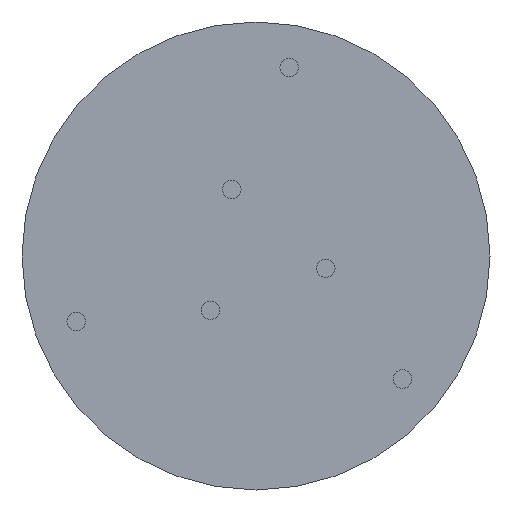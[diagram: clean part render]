
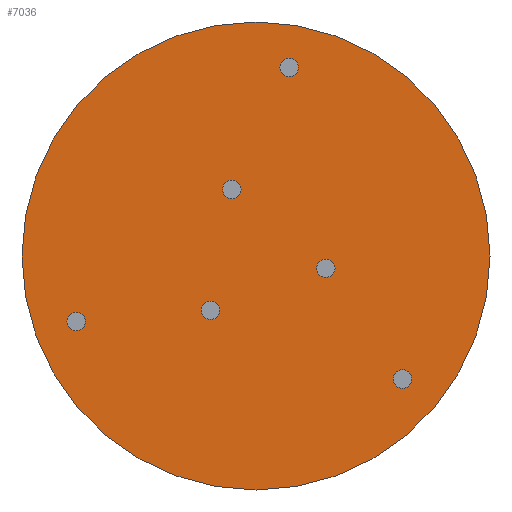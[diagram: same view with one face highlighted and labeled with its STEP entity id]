
A CAD part, front view. The second image highlights one B-rep face of the part: STEP entity #7036.
In plain terms, the highlighted planar face has unit normal (0, -1, 0).
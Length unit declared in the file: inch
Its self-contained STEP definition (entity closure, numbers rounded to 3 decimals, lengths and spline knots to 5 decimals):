
#660 = DIRECTION ( 'NONE',  ( 0., 0., 1. ) ) ;
#849 = ORIENTED_EDGE ( 'NONE', *, *, #27517, .T. ) ;
#867 = DIRECTION ( 'NONE',  ( 0., -1., 0. ) ) ;
#882 = EDGE_LOOP ( 'NONE', ( #849, #9481 ) ) ;
#1017 = CARTESIAN_POINT ( 'NONE',  ( -1.24861, -1.19424, -0.39028 ) ) ;
#1350 = CARTESIAN_POINT ( 'NONE',  ( 0.48465, -1.19424, -0.08546 ) ) ;
#2125 = ORIENTED_EDGE ( 'NONE', *, *, #2767, .T. ) ;
#2678 = DIRECTION ( 'NONE',  ( 0., 0., 1. ) ) ;
#2767 = EDGE_CURVE ( 'NONE', #28393, #37525, #39698, .T. ) ;
#3000 = DIRECTION ( 'NONE',  ( 0., 1., 0. ) ) ;
#3246 = CARTESIAN_POINT ( 'NONE',  ( -1.24861, -1.19424, -0.51863 ) ) ;
#3562 = CARTESIAN_POINT ( 'NONE',  ( 0.48465, -1.19424, -0.08546 ) ) ;
#3701 = CARTESIAN_POINT ( 'NONE',  ( 0.23073, -1.19424, 1.37273 ) ) ;
#3897 = EDGE_CURVE ( 'NONE', #39075, #25338, #12482, .T. ) ;
#3996 = VERTEX_POINT ( 'NONE', #3701 ) ;
#4441 = CARTESIAN_POINT ( 'NONE',  ( 0., -1.19424, 1.62475 ) ) ;
#4602 = DIRECTION ( 'NONE',  ( 0., 1., 0. ) ) ;
#4947 = CARTESIAN_POINT ( 'NONE',  ( -0.16832, -1.19424, 0.52662 ) ) ;
#5356 = CIRCLE ( 'NONE', #17057, 0.06417 ) ;
#5467 = CARTESIAN_POINT ( 'NONE',  ( 1.01787, -1.19424, -0.91827 ) ) ;
#5566 = ORIENTED_EDGE ( 'NONE', *, *, #24987, .T. ) ;
#5693 = CARTESIAN_POINT ( 'NONE',  ( 0., -1.19424, 0. ) ) ;
#6194 = DIRECTION ( 'NONE',  ( 0., 1., 0. ) ) ;
#6508 = DIRECTION ( 'NONE',  ( 0., 0., 1. ) ) ;
#6610 = DIRECTION ( 'NONE',  ( 0., 1., 0. ) ) ;
#6855 = AXIS2_PLACEMENT_3D ( 'NONE', #3562, #36313, #24168 ) ;
#7036 = ADVANCED_FACE ( 'NONE', ( #20160, #37640, #27552, #38316, #36295, #9533, #10804 ), #25521, .T. ) ;
#7470 = DIRECTION ( 'NONE',  ( 0., 0., -1. ) ) ;
#7742 = EDGE_CURVE ( 'NONE', #10755, #3996, #15672, .T. ) ;
#8001 = CARTESIAN_POINT ( 'NONE',  ( -0.31633, -1.19424, -0.37699 ) ) ;
#8178 = ORIENTED_EDGE ( 'NONE', *, *, #7742, .T. ) ;
#9007 = CARTESIAN_POINT ( 'NONE',  ( -0.16832, -1.19424, 0.46245 ) ) ;
#9086 = EDGE_LOOP ( 'NONE', ( #16777, #14699 ) ) ;
#9431 = VERTEX_POINT ( 'NONE', #5467 ) ;
#9481 = ORIENTED_EDGE ( 'NONE', *, *, #3897, .T. ) ;
#9533 = FACE_BOUND ( 'NONE', #23449, .T. ) ;
#9676 = DIRECTION ( 'NONE',  ( 0., 1., 0. ) ) ;
#10499 = CARTESIAN_POINT ( 'NONE',  ( 0.23073, -1.19424, 1.30855 ) ) ;
#10755 = VERTEX_POINT ( 'NONE', #20962 ) ;
#10804 = FACE_OUTER_BOUND ( 'NONE', #41431, .T. ) ;
#11065 = CARTESIAN_POINT ( 'NONE',  ( 0.23073, -1.19424, 1.30855 ) ) ;
#12482 = CIRCLE ( 'NONE', #19868, 0.06417 ) ;
#13203 = AXIS2_PLACEMENT_3D ( 'NONE', #29573, #867, #7470 ) ;
#13389 = VERTEX_POINT ( 'NONE', #4947 ) ;
#14180 = ORIENTED_EDGE ( 'NONE', *, *, #18411, .T. ) ;
#14210 = EDGE_CURVE ( 'NONE', #14649, #16172, #19831, .T. ) ;
#14393 = DIRECTION ( 'NONE',  ( 0., 0., 1. ) ) ;
#14649 = VERTEX_POINT ( 'NONE', #35312 ) ;
#14663 = CARTESIAN_POINT ( 'NONE',  ( 0., -1.19424, 0. ) ) ;
#14699 = ORIENTED_EDGE ( 'NONE', *, *, #27592, .T. ) ;
#14911 = AXIS2_PLACEMENT_3D ( 'NONE', #10499, #15818, #6508 ) ;
#14977 = EDGE_CURVE ( 'NONE', #13389, #38180, #39030, .T. ) ;
#15645 = CARTESIAN_POINT ( 'NONE',  ( 1.01787, -1.19424, -0.8541 ) ) ;
#15672 = CIRCLE ( 'NONE', #14911, 0.06417 ) ;
#15818 = DIRECTION ( 'NONE',  ( 0., 1., 0. ) ) ;
#16169 = ORIENTED_EDGE ( 'NONE', *, *, #39729, .T. ) ;
#16172 = VERTEX_POINT ( 'NONE', #4441 ) ;
#16259 = CIRCLE ( 'NONE', #36036, 0.06417 ) ;
#16614 = EDGE_LOOP ( 'NONE', ( #16169, #5566 ) ) ;
#16692 = CARTESIAN_POINT ( 'NONE',  ( 1.01787, -1.19424, -0.78992 ) ) ;
#16777 = ORIENTED_EDGE ( 'NONE', *, *, #23933, .T. ) ;
#16880 = DIRECTION ( 'NONE',  ( 0., 1., 0. ) ) ;
#17046 = DIRECTION ( 'NONE',  ( 0., 1., 0. ) ) ;
#17057 = AXIS2_PLACEMENT_3D ( 'NONE', #11065, #17046, #14393 ) ;
#17209 = CARTESIAN_POINT ( 'NONE',  ( -0.31633, -1.19424, -0.44116 ) ) ;
#17410 = AXIS2_PLACEMENT_3D ( 'NONE', #14663, #38167, #20004 ) ;
#17628 = DIRECTION ( 'NONE',  ( 0., 0., 1. ) ) ;
#18411 = EDGE_CURVE ( 'NONE', #38180, #13389, #36600, .T. ) ;
#18806 = DIRECTION ( 'NONE',  ( 0., 1., 0. ) ) ;
#19482 = ORIENTED_EDGE ( 'NONE', *, *, #26570, .T. ) ;
#19831 = CIRCLE ( 'NONE', #39131, 1.62475 ) ;
#19868 = AXIS2_PLACEMENT_3D ( 'NONE', #24191, #6194, #660 ) ;
#19927 = CARTESIAN_POINT ( 'NONE',  ( -1.24861, -1.19424, -0.45446 ) ) ;
#20004 = DIRECTION ( 'NONE',  ( 0., 0., -1. ) ) ;
#20160 = FACE_BOUND ( 'NONE', #33649, .T. ) ;
#20533 = CARTESIAN_POINT ( 'NONE',  ( 0.48465, -1.19424, -0.02128 ) ) ;
#20767 = AXIS2_PLACEMENT_3D ( 'NONE', #19927, #4602, #41441 ) ;
#20962 = CARTESIAN_POINT ( 'NONE',  ( 0.23073, -1.19424, 1.24438 ) ) ;
#22043 = CIRCLE ( 'NONE', #20767, 0.06417 ) ;
#22303 = CARTESIAN_POINT ( 'NONE',  ( -0.31633, -1.19424, -0.31282 ) ) ;
#22330 = DIRECTION ( 'NONE',  ( 0., 0., -1. ) ) ;
#22606 = CIRCLE ( 'NONE', #38345, 0.06417 ) ;
#22714 = CARTESIAN_POINT ( 'NONE',  ( -0.16832, -1.19424, 0.39827 ) ) ;
#22884 = DIRECTION ( 'NONE',  ( 0., 0., 1. ) ) ;
#23449 = EDGE_LOOP ( 'NONE', ( #19482, #8178 ) ) ;
#23933 = EDGE_CURVE ( 'NONE', #39565, #27395, #22043, .T. ) ;
#24056 = AXIS2_PLACEMENT_3D ( 'NONE', #9007, #9676, #17628 ) ;
#24168 = DIRECTION ( 'NONE',  ( 0., 0., 1. ) ) ;
#24191 = CARTESIAN_POINT ( 'NONE',  ( -0.31633, -1.19424, -0.37699 ) ) ;
#24820 = ORIENTED_EDGE ( 'NONE', *, *, #26052, .T. ) ;
#24895 = CIRCLE ( 'NONE', #17410, 1.62475 ) ;
#24987 = EDGE_CURVE ( 'NONE', #9431, #39967, #32160, .T. ) ;
#25216 = EDGE_CURVE ( 'NONE', #37525, #28393, #36735, .T. ) ;
#25338 = VERTEX_POINT ( 'NONE', #22303 ) ;
#25521 = PLANE ( 'NONE',  #13203 ) ;
#26052 = EDGE_CURVE ( 'NONE', #16172, #14649, #24895, .T. ) ;
#26570 = EDGE_CURVE ( 'NONE', #3996, #10755, #5356, .T. ) ;
#27395 = VERTEX_POINT ( 'NONE', #3246 ) ;
#27517 = EDGE_CURVE ( 'NONE', #25338, #39075, #16259, .T. ) ;
#27552 = FACE_BOUND ( 'NONE', #882, .T. ) ;
#27592 = EDGE_CURVE ( 'NONE', #27395, #39565, #22606, .T. ) ;
#27641 = AXIS2_PLACEMENT_3D ( 'NONE', #39689, #18806, #34943 ) ;
#27664 = DIRECTION ( 'NONE',  ( 0., 0., 1. ) ) ;
#28147 = ORIENTED_EDGE ( 'NONE', *, *, #25216, .T. ) ;
#28393 = VERTEX_POINT ( 'NONE', #39487 ) ;
#29553 = EDGE_LOOP ( 'NONE', ( #40989, #14180 ) ) ;
#29573 = CARTESIAN_POINT ( 'NONE',  ( 0., -1.19424, 0. ) ) ;
#30104 = AXIS2_PLACEMENT_3D ( 'NONE', #15645, #3000, #27664 ) ;
#31393 = DIRECTION ( 'NONE',  ( 0., 1., 0. ) ) ;
#32160 = CIRCLE ( 'NONE', #30104, 0.06417 ) ;
#32385 = AXIS2_PLACEMENT_3D ( 'NONE', #1350, #35460, #34178 ) ;
#33426 = CARTESIAN_POINT ( 'NONE',  ( -1.24861, -1.19424, -0.45446 ) ) ;
#33649 = EDGE_LOOP ( 'NONE', ( #28147, #2125 ) ) ;
#34178 = DIRECTION ( 'NONE',  ( 0., 0., 1. ) ) ;
#34943 = DIRECTION ( 'NONE',  ( 0., 0., 1. ) ) ;
#35121 = CIRCLE ( 'NONE', #27641, 0.06417 ) ;
#35312 = CARTESIAN_POINT ( 'NONE',  ( 0., -1.19424, -1.62475 ) ) ;
#35460 = DIRECTION ( 'NONE',  ( 0., 1., 0. ) ) ;
#36036 = AXIS2_PLACEMENT_3D ( 'NONE', #8001, #31393, #36789 ) ;
#36049 = AXIS2_PLACEMENT_3D ( 'NONE', #39742, #16880, #22884 ) ;
#36295 = FACE_BOUND ( 'NONE', #29553, .T. ) ;
#36313 = DIRECTION ( 'NONE',  ( 0., 1., 0. ) ) ;
#36600 = CIRCLE ( 'NONE', #36049, 0.06417 ) ;
#36735 = CIRCLE ( 'NONE', #32385, 0.06417 ) ;
#36789 = DIRECTION ( 'NONE',  ( 0., 0., 1. ) ) ;
#37525 = VERTEX_POINT ( 'NONE', #20533 ) ;
#37640 = FACE_BOUND ( 'NONE', #16614, .T. ) ;
#38167 = DIRECTION ( 'NONE',  ( 0., -1., 0. ) ) ;
#38180 = VERTEX_POINT ( 'NONE', #22714 ) ;
#38316 = FACE_BOUND ( 'NONE', #9086, .T. ) ;
#38345 = AXIS2_PLACEMENT_3D ( 'NONE', #33426, #6610, #2678 ) ;
#38371 = ORIENTED_EDGE ( 'NONE', *, *, #14210, .T. ) ;
#39030 = CIRCLE ( 'NONE', #24056, 0.06417 ) ;
#39075 = VERTEX_POINT ( 'NONE', #17209 ) ;
#39131 = AXIS2_PLACEMENT_3D ( 'NONE', #5693, #39865, #22330 ) ;
#39487 = CARTESIAN_POINT ( 'NONE',  ( 0.48465, -1.19424, -0.14963 ) ) ;
#39565 = VERTEX_POINT ( 'NONE', #1017 ) ;
#39689 = CARTESIAN_POINT ( 'NONE',  ( 1.01787, -1.19424, -0.8541 ) ) ;
#39698 = CIRCLE ( 'NONE', #6855, 0.06417 ) ;
#39729 = EDGE_CURVE ( 'NONE', #39967, #9431, #35121, .T. ) ;
#39742 = CARTESIAN_POINT ( 'NONE',  ( -0.16832, -1.19424, 0.46245 ) ) ;
#39865 = DIRECTION ( 'NONE',  ( 0., -1., 0. ) ) ;
#39967 = VERTEX_POINT ( 'NONE', #16692 ) ;
#40989 = ORIENTED_EDGE ( 'NONE', *, *, #14977, .T. ) ;
#41431 = EDGE_LOOP ( 'NONE', ( #24820, #38371 ) ) ;
#41441 = DIRECTION ( 'NONE',  ( 0., 0., 1. ) ) ;
